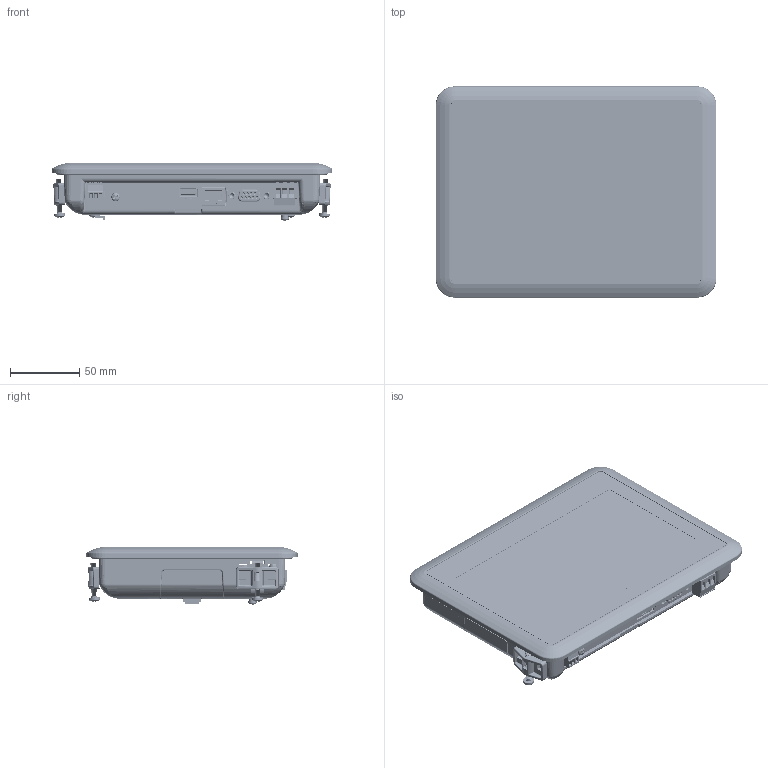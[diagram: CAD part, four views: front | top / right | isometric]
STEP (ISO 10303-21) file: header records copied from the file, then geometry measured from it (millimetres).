
FILE_DESCRIPTION (( 'STEP AP203' ), '1' );
FILE_NAME ('T7F-3_.step', '2020-11-24T09:32:45', ( '' ), ( '' ), 'SwSTEP 2.0', 'SolidWorks 2020', '' );
FILE_SCHEMA (( 'CONFIG_CONTROL_DESIGN' ));
Length unit declared in the file: millimetre
Products named in the file (25): 900-0083; DFOIL-00019 (cut out); 900-1102; LY201362101_T7F3_R20_VC05_20200127; 17002805; DLBL-00005; DENCL-00016; pan head cross recess screw_1_iso_ISO 7045 - M4 x 25 - Z - 25S; 17002804; DTSCRN-00008_TSCRN ONLY; DBRKT-00037 In Mold thread; IUB-M4-2_TAPERED, THRU THREADED INSERT_537D_130C16; DBRKT-00035_DBRKT-00036_Basic DBRKT-00035; 900-0414_threaded; DGSKT-00018; dinkle_ec350v-03p; DHDWR-00007; DENCL-00017; 900-0571; DGSKT-00013; 900-1119; Display-7 AUO 070VTN06; T7F-3_; DHDWR-00006; 900-0018_threaded
Assembly tree (40 placements, depth 2):
  T7F-3_
    DENCL-00016
    DGSKT-00018
    DTSCRN-00008_TSCRN ONLY
    DHDWR-00006  x2
    17002804  x2
    17002805  x2
    Display-7 AUO 070VTN06
    900-1119
    900-0018_threaded  x2
    dinkle_ec350v-03p
    DBRKT-00035_DBRKT-00036_Basic DBRKT-00035
    DHDWR-00007
    LY201362101_T7F3_R20_VC05_20200127
    900-0571
    DGSKT-00013
    DENCL-00017
    IUB-M4-2_TAPERED, THRU THREADED INSERT_537D_130C16  x4
    DBRKT-00037 In Mold thread  x4
    pan head cross recess screw_1_iso_ISO 7045 - M4 x 25 - Z - 25S  x4
    900-0414_threaded  x2
    DLBL-00005
    900-0083  x3
    900-1102
    DFOIL-00019 (cut out)
Bounding box: 202.07 x 152.07 x 41.25 mm (x, y, z)
Volume: 290209.2 mm3; surface area: 389339.1 mm2
Topology: 46 solids, 304 shells, 23254 faces, 62583 edges, 40774 vertices
Faces by surface type: plane 15704, cylinder 4540, bspline 1974, cone 847, torus 111, sphere 78
Entity records: 732089 total; most frequent: CARTESIAN_POINT 227926, ORIENTED_EDGE 110046, DIRECTION 94014, EDGE_CURVE 55071, VECTOR 42086, LINE 42086, VERTEX_POINT 35969, AXIS2_PLACEMENT_3D 25964
